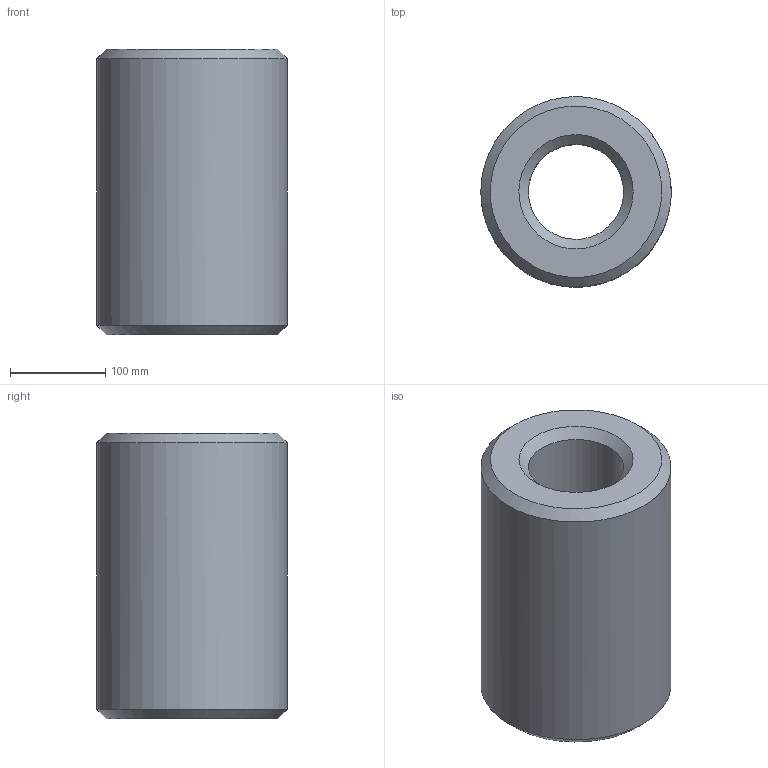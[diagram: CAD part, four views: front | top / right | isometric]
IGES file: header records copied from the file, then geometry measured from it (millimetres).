
Global section: file name: import; native system: AutoCAD 2018 - Français (French),; preprocessor: Autodesk Translation Framework DWG producer (atf_dwg_producer); organization: unknown; date: 20170412.162059; units: millimetre
Bounding box: 200 x 200 x 300 mm (x, y, z)
Volume: 6986391.3 mm3; surface area: 319337.6 mm2
Topology: 1 solids, 1 shells, 8 faces, 15 edges, 9 vertices
Faces by surface type: bspline 8
